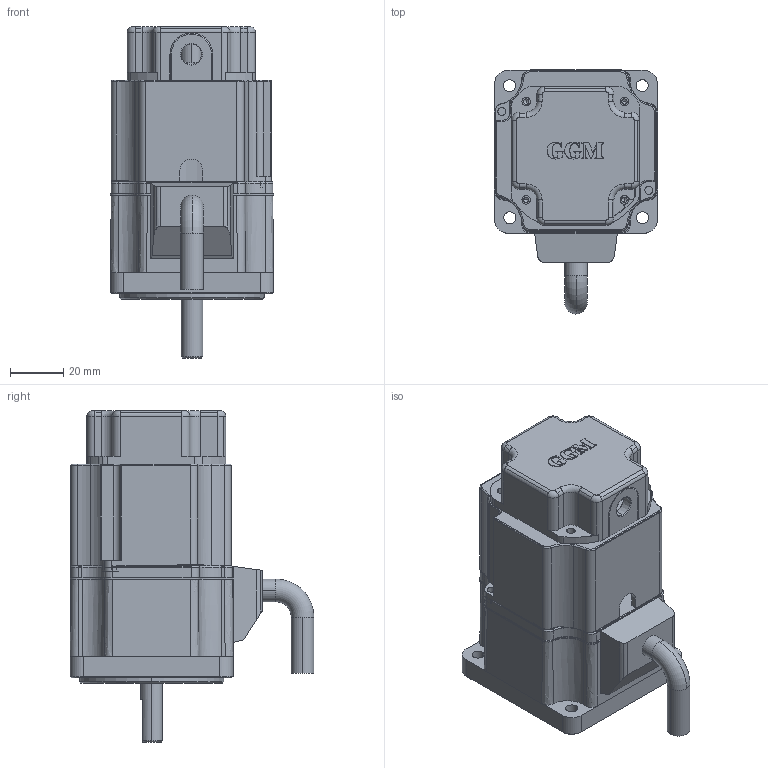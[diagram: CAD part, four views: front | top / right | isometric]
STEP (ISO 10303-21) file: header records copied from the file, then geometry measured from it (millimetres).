
FILE_DESCRIPTION (( 'STEP AP214' ), '1' );
FILE_NAME ('X Series 30w_brake_encoder_S.STEP', '2023-08-16T06:23:57', ( '' ), ( '' ), 'SwSTEP 2.0', 'SolidWorks 2022', '' );
FILE_SCHEMA (( 'AUTOMOTIVE_DESIGN' ));
Length unit declared in the file: millimetre
Products named in the file (7): X Series 30w_brake_S.stp; LEAD BUSH.stp; K6BS30N﹤.stp; ENCODER COVER ASS''Y; BRAKE COVER 譆謙.stp; X Series 30w_brake_encoder_S; ENCODER COVER
Assembly tree (6 placements, depth 3):
  X Series 30w_brake_encoder_S
    X Series 30w_brake_S.stp
      BRAKE COVER 譆謙.stp
      K6BS30N﹤.stp
    ENCODER COVER ASS''Y
      LEAD BUSH.stp
      ENCODER COVER
Bounding box: 61.1 x 91.3 x 124.3 mm (x, y, z)
Volume: 189846.6 mm3; surface area: 63478.2 mm2
Topology: 4 solids, 13 shells, 980 faces, 2551 edges, 1608 vertices
Faces by surface type: cylinder 421, plane 346, bspline 83, torus 78, cone 31, sphere 21
Entity records: 33299 total; most frequent: CARTESIAN_POINT 7398, DIRECTION 5127, ORIENTED_EDGE 5074, EDGE_CURVE 2537, AXIS2_PLACEMENT_3D 1901, VERTEX_POINT 1607, LINE 1325, VECTOR 1325
